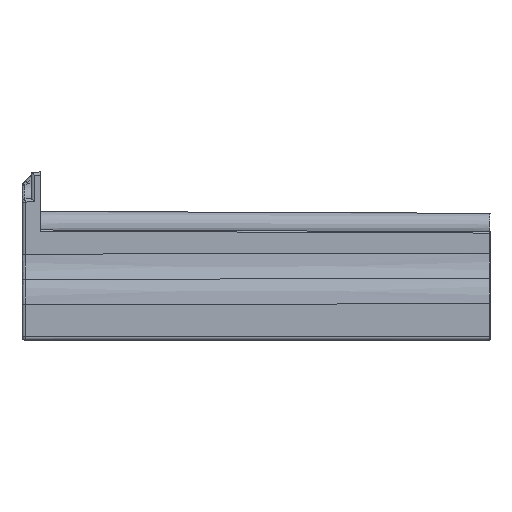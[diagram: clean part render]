
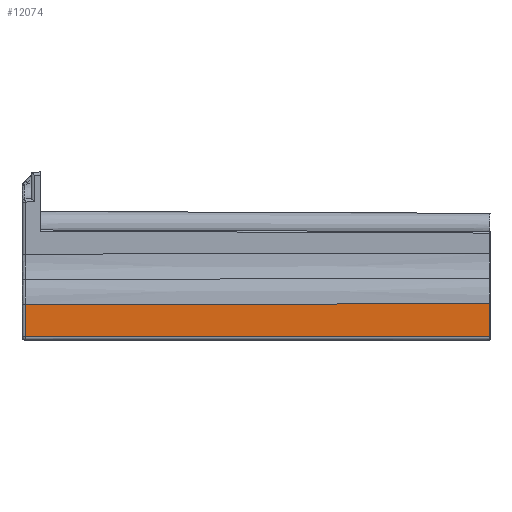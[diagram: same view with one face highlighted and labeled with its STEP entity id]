
A CAD part, left-side view. The second image highlights one B-rep face of the part: STEP entity #12074.
In plain terms, the highlighted planar face has unit normal (-1, 0.004, 0).
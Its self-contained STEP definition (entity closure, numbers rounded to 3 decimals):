
#689 = CARTESIAN_POINT ( 'NONE',  ( -76.952, 26.666, -3.147 ) ) ;
#1798 = LINE ( 'NONE', #5286, #8645 ) ;
#2450 = CARTESIAN_POINT ( 'NONE',  ( -76.799, 61.66, -3.204 ) ) ;
#2549 = EDGE_CURVE ( 'NONE', #13700, #13655, #4914, .T. ) ;
#2621 = CARTESIAN_POINT ( 'NONE',  ( -76.739, 75.502, -8.5 ) ) ;
#2846 = CARTESIAN_POINT ( 'NONE',  ( -76.739, 75.502, -3.227 ) ) ;
#3073 = EDGE_CURVE ( 'NONE', #13655, #17717, #1798, .T. ) ;
#3333 = CARTESIAN_POINT ( 'NONE',  ( -76.759, 70.888, -3.22 ) ) ;
#3347 = EDGE_LOOP ( 'NONE', ( #14369, #3694, #6586, #17494 ) ) ;
#3694 = ORIENTED_EDGE ( 'NONE', *, *, #2549, .T. ) ;
#4460 = LINE ( 'NONE', #7025, #7934 ) ;
#4914 = LINE ( 'NONE', #14636, #11709 ) ;
#5286 = CARTESIAN_POINT ( 'NONE',  ( -77.069, 0., 9. ) ) ;
#5387 = B_SPLINE_CURVE_WITH_KNOTS ( 'NONE', 3,
 ( #5915, #11066, #689, #10476, #9618, #17122, #2450, #14490, #3333, #6782 ),
 .UNSPECIFIED., .F., .F.,
 ( 4, 3, 3, 4 ),
 ( 0., 0.04, 0.062, 0.076 ),
 .UNSPECIFIED. ) ;
#5579 = DIRECTION ( 'NONE',  ( -1., 0.004, 0. ) ) ;
#5915 = CARTESIAN_POINT ( 'NONE',  ( -77.069, 0., -3.105 ) ) ;
#6346 = CARTESIAN_POINT ( 'NONE',  ( -77.069, 0., -8.5 ) ) ;
#6586 = ORIENTED_EDGE ( 'NONE', *, *, #3073, .T. ) ;
#6782 = CARTESIAN_POINT ( 'NONE',  ( -76.739, 75.502, -3.227 ) ) ;
#7025 = CARTESIAN_POINT ( 'NONE',  ( -76.739, 75.502, -9. ) ) ;
#7579 = EDGE_CURVE ( 'NONE', #10276, #13700, #4460, .T. ) ;
#7934 = VECTOR ( 'NONE', #14454, 1000. ) ;
#8243 = CARTESIAN_POINT ( 'NONE',  ( -77.069, 0., -3.105 ) ) ;
#8645 = VECTOR ( 'NONE', #11003, 1000. ) ;
#8646 = AXIS2_PLACEMENT_3D ( 'NONE', #8985, #5579, #11273 ) ;
#8985 = CARTESIAN_POINT ( 'NONE',  ( -76.75, 73., 9. ) ) ;
#9618 = CARTESIAN_POINT ( 'NONE',  ( -76.862, 47.22, -3.181 ) ) ;
#10276 = VERTEX_POINT ( 'NONE', #2846 ) ;
#10476 = CARTESIAN_POINT ( 'NONE',  ( -76.894, 40., -3.169 ) ) ;
#11003 = DIRECTION ( 'NONE',  ( 0., 0., 1. ) ) ;
#11066 = CARTESIAN_POINT ( 'NONE',  ( -77.01, 13.333, -3.126 ) ) ;
#11273 = DIRECTION ( 'NONE',  ( -0.004, -1., 0. ) ) ;
#11709 = VECTOR ( 'NONE', #15790, 1000. ) ;
#12074 = ADVANCED_FACE ( 'NONE', ( #13849 ), #13277, .T. ) ;
#13277 = PLANE ( 'NONE',  #8646 ) ;
#13655 = VERTEX_POINT ( 'NONE', #6346 ) ;
#13700 = VERTEX_POINT ( 'NONE', #2621 ) ;
#13849 = FACE_OUTER_BOUND ( 'NONE', #3347, .T. ) ;
#14369 = ORIENTED_EDGE ( 'NONE', *, *, #7579, .T. ) ;
#14454 = DIRECTION ( 'NONE',  ( 0., 0., -1. ) ) ;
#14490 = CARTESIAN_POINT ( 'NONE',  ( -76.779, 66.274, -3.212 ) ) ;
#14636 = CARTESIAN_POINT ( 'NONE',  ( -76.75, 73., -8.5 ) ) ;
#15790 = DIRECTION ( 'NONE',  ( -0.004, -1., 0. ) ) ;
#16629 = EDGE_CURVE ( 'NONE', #17717, #10276, #5387, .T. ) ;
#17122 = CARTESIAN_POINT ( 'NONE',  ( -76.831, 54.44, -3.193 ) ) ;
#17494 = ORIENTED_EDGE ( 'NONE', *, *, #16629, .T. ) ;
#17717 = VERTEX_POINT ( 'NONE', #8243 ) ;
